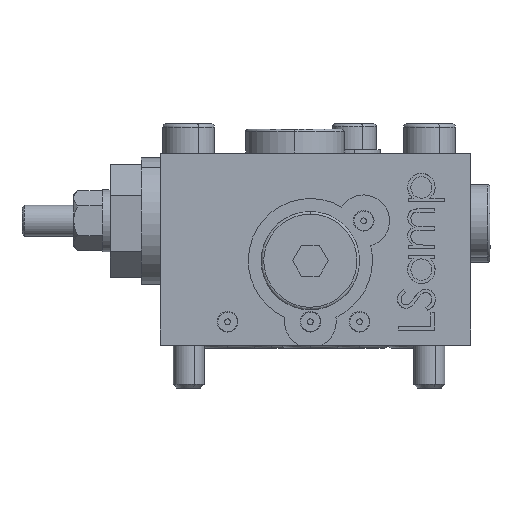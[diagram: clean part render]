
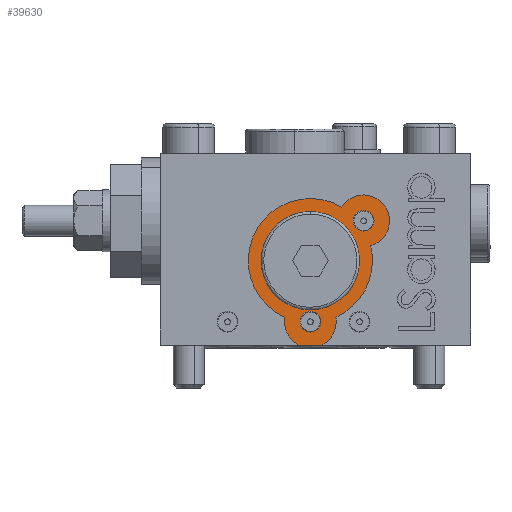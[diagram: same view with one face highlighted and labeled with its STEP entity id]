
A CAD part, left-side view. The second image highlights one B-rep face of the part: STEP entity #39630.
In plain terms, the highlighted planar face has unit normal (-1, 0, 0).
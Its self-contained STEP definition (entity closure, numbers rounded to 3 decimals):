
#348 = DIRECTION ( 'NONE',  ( -1., 0., 0. ) ) ;
#1657 = DIRECTION ( 'NONE',  ( -1., 0., 0. ) ) ;
#3519 = AXIS2_PLACEMENT_3D ( 'NONE', #12569, #23019, #19329 ) ;
#3849 = VERTEX_POINT ( 'NONE', #44828 ) ;
#3906 = CARTESIAN_POINT ( 'NONE',  ( 0.3, -29., 6.5 ) ) ;
#4014 = EDGE_CURVE ( 'NONE', #14472, #30923, #39243, .T. ) ;
#4237 = CIRCLE ( 'NONE', #3519, 12. ) ;
#4608 = CARTESIAN_POINT ( 'NONE',  ( 0.3, -29., 4.5 ) ) ;
#5322 = AXIS2_PLACEMENT_3D ( 'NONE', #40714, #37898, #9039 ) ;
#5469 = CARTESIAN_POINT ( 'NONE',  ( 0.3, -29., 16.3 ) ) ;
#5565 = DIRECTION ( 'NONE',  ( -1., 0., 0. ) ) ;
#6009 = CARTESIAN_POINT ( 'NONE',  ( 0.3, -29., 22.022 ) ) ;
#6166 = ORIENTED_EDGE ( 'NONE', *, *, #26347, .T. ) ;
#6289 = CARTESIAN_POINT ( 'NONE',  ( 0.3, -39.3, 26. ) ) ;
#6669 = CIRCLE ( 'NONE', #27305, 5.722 ) ;
#7082 = DIRECTION ( 'NONE',  ( 0., 0., 1. ) ) ;
#7326 = ORIENTED_EDGE ( 'NONE', *, *, #9170, .T. ) ;
#7945 = CARTESIAN_POINT ( 'NONE',  ( 0.3, -33.926, 5.358 ) ) ;
#8046 = CARTESIAN_POINT ( 'NONE',  ( 0.3, -29., 4.5 ) ) ;
#8601 = VERTEX_POINT ( 'NONE', #3906 ) ;
#8920 = DIRECTION ( 'NONE',  ( -1., 0., 0. ) ) ;
#9039 = DIRECTION ( 'NONE',  ( 0., 0., 1. ) ) ;
#9170 = EDGE_CURVE ( 'NONE', #3849, #38167, #32616, .T. ) ;
#9527 = ORIENTED_EDGE ( 'NONE', *, *, #19873, .T. ) ;
#9678 = AXIS2_PLACEMENT_3D ( 'NONE', #17088, #20329, #30474 ) ;
#11335 = VERTEX_POINT ( 'NONE', #34589 ) ;
#11585 = CARTESIAN_POINT ( 'NONE',  ( 0.3, -29., 4.5 ) ) ;
#11921 = VERTEX_POINT ( 'NONE', #18192 ) ;
#12569 = CARTESIAN_POINT ( 'NONE',  ( 0.3, -29., 16.3 ) ) ;
#12978 = VERTEX_POINT ( 'NONE', #32044 ) ;
#14048 = EDGE_LOOP ( 'NONE', ( #6166, #25636, #42347, #19351, #7326, #35489, #38068, #20562, #42597 ) ) ;
#14219 = EDGE_LOOP ( 'NONE', ( #20410, #32819 ) ) ;
#14435 = DIRECTION ( 'NONE',  ( 0., -1., 0. ) ) ;
#14472 = VERTEX_POINT ( 'NONE', #6289 ) ;
#14580 = VERTEX_POINT ( 'NONE', #40969 ) ;
#14810 = EDGE_CURVE ( 'NONE', #12978, #33454, #27073, .T. ) ;
#14912 = FACE_BOUND ( 'NONE', #14219, .T. ) ;
#15003 = DIRECTION ( 'NONE',  ( 1., 0., 0. ) ) ;
#15060 = EDGE_CURVE ( 'NONE', #30923, #14472, #17546, .T. ) ;
#15416 = VERTEX_POINT ( 'NONE', #36342 ) ;
#15472 = EDGE_CURVE ( 'NONE', #18871, #8601, #29882, .T. ) ;
#16217 = CARTESIAN_POINT ( 'NONE',  ( 0.3, -39.3, 24. ) ) ;
#16445 = DIRECTION ( 'NONE',  ( 1., 0., 0. ) ) ;
#16560 = CARTESIAN_POINT ( 'NONE',  ( 0.3, -29., 4.5 ) ) ;
#16607 = AXIS2_PLACEMENT_3D ( 'NONE', #30563, #44879, #27326 ) ;
#16738 = CARTESIAN_POINT ( 'NONE',  ( 0.3, -39.3, 22. ) ) ;
#17088 = CARTESIAN_POINT ( 'NONE',  ( 0.3, -29., 16.3 ) ) ;
#17546 = CIRCLE ( 'NONE', #35207, 2. ) ;
#17864 = CIRCLE ( 'NONE', #9678, 5.722 ) ;
#17949 = FACE_OUTER_BOUND ( 'NONE', #14048, .T. ) ;
#18192 = CARTESIAN_POINT ( 'NONE',  ( 0.3, -26.821, 0. ) ) ;
#18264 = EDGE_CURVE ( 'NONE', #15416, #14580, #19802, .T. ) ;
#18639 = PLANE ( 'NONE',  #39557 ) ;
#18871 = VERTEX_POINT ( 'NONE', #31618 ) ;
#19132 = DIRECTION ( 'NONE',  ( 0., -1., 0. ) ) ;
#19329 = DIRECTION ( 'NONE',  ( 0., -1., 0. ) ) ;
#19351 = ORIENTED_EDGE ( 'NONE', *, *, #26658, .T. ) ;
#19802 = CIRCLE ( 'NONE', #23505, 5. ) ;
#19873 = EDGE_CURVE ( 'NONE', #8601, #18871, #33813, .T. ) ;
#20270 = DIRECTION ( 'NONE',  ( 0., -1., 0. ) ) ;
#20329 = DIRECTION ( 'NONE',  ( 1., 0., 0. ) ) ;
#20410 = ORIENTED_EDGE ( 'NONE', *, *, #4014, .T. ) ;
#20562 = ORIENTED_EDGE ( 'NONE', *, *, #14810, .T. ) ;
#20683 = EDGE_LOOP ( 'NONE', ( #9527, #24934 ) ) ;
#20970 = CARTESIAN_POINT ( 'NONE',  ( 0.3, -29., 16.3 ) ) ;
#21630 = FACE_BOUND ( 'NONE', #20683, .T. ) ;
#22201 = DIRECTION ( 'NONE',  ( 0., -1., 0. ) ) ;
#22248 = AXIS2_PLACEMENT_3D ( 'NONE', #5469, #8920, #19132 ) ;
#22281 = CIRCLE ( 'NONE', #41317, 5. ) ;
#22492 = EDGE_CURVE ( 'NONE', #33454, #32565, #25885, .T. ) ;
#22821 = EDGE_CURVE ( 'NONE', #38167, #11921, #40683, .T. ) ;
#23019 = DIRECTION ( 'NONE',  ( -1., 0., 0. ) ) ;
#23160 = DIRECTION ( 'NONE',  ( 0., -1., 0. ) ) ;
#23339 = ORIENTED_EDGE ( 'NONE', *, *, #44156, .T. ) ;
#23505 = AXIS2_PLACEMENT_3D ( 'NONE', #25527, #32196, #28967 ) ;
#23597 = DIRECTION ( 'NONE',  ( 0., 0., 1. ) ) ;
#23720 = AXIS2_PLACEMENT_3D ( 'NONE', #16560, #30630, #20270 ) ;
#23944 = EDGE_CURVE ( 'NONE', #27669, #15416, #4237, .T. ) ;
#24043 = VECTOR ( 'NONE', #34582, 1000. ) ;
#24934 = ORIENTED_EDGE ( 'NONE', *, *, #15472, .T. ) ;
#25527 = CARTESIAN_POINT ( 'NONE',  ( 0.3, -39.3, 24. ) ) ;
#25636 = ORIENTED_EDGE ( 'NONE', *, *, #23944, .T. ) ;
#25885 = CIRCLE ( 'NONE', #35433, 5. ) ;
#26347 = EDGE_CURVE ( 'NONE', #32565, #27669, #32570, .T. ) ;
#26586 = CARTESIAN_POINT ( 'NONE',  ( 0.3, -29., 16.3 ) ) ;
#26607 = DIRECTION ( 'NONE',  ( -1., 0., 0. ) ) ;
#26658 = EDGE_CURVE ( 'NONE', #14580, #3849, #22281, .T. ) ;
#27038 = CARTESIAN_POINT ( 'NONE',  ( 0.3, -39.3, 24. ) ) ;
#27073 = CIRCLE ( 'NONE', #32990, 5. ) ;
#27305 = AXIS2_PLACEMENT_3D ( 'NONE', #20970, #31571, #7082 ) ;
#27326 = DIRECTION ( 'NONE',  ( 0., 0., 1. ) ) ;
#27669 = VERTEX_POINT ( 'NONE', #34065 ) ;
#27766 = CARTESIAN_POINT ( 'NONE',  ( 0.3, -24.074, 5.358 ) ) ;
#28967 = DIRECTION ( 'NONE',  ( 0., -1., 0. ) ) ;
#29882 = CIRCLE ( 'NONE', #16607, 2. ) ;
#30474 = DIRECTION ( 'NONE',  ( 0., 0., 1. ) ) ;
#30563 = CARTESIAN_POINT ( 'NONE',  ( 0.3, -29., 4.5 ) ) ;
#30630 = DIRECTION ( 'NONE',  ( -1., 0., 0. ) ) ;
#30662 = LINE ( 'NONE', #41514, #24043 ) ;
#30835 = EDGE_LOOP ( 'NONE', ( #33613, #23339 ) ) ;
#30923 = VERTEX_POINT ( 'NONE', #16738 ) ;
#31571 = DIRECTION ( 'NONE',  ( 1., 0., 0. ) ) ;
#31618 = CARTESIAN_POINT ( 'NONE',  ( 0.3, -29., 2.5 ) ) ;
#32044 = CARTESIAN_POINT ( 'NONE',  ( 0.3, -31.179, 0. ) ) ;
#32196 = DIRECTION ( 'NONE',  ( -1., 0., 0. ) ) ;
#32459 = FACE_BOUND ( 'NONE', #30835, .T. ) ;
#32565 = VERTEX_POINT ( 'NONE', #7945 ) ;
#32570 = CIRCLE ( 'NONE', #22248, 12. ) ;
#32616 = CIRCLE ( 'NONE', #45144, 12. ) ;
#32690 = CARTESIAN_POINT ( 'NONE',  ( 0.3, -29., 16.3 ) ) ;
#32819 = ORIENTED_EDGE ( 'NONE', *, *, #15060, .T. ) ;
#32990 = AXIS2_PLACEMENT_3D ( 'NONE', #11585, #5565, #39767 ) ;
#33454 = VERTEX_POINT ( 'NONE', #37127 ) ;
#33613 = ORIENTED_EDGE ( 'NONE', *, *, #36821, .T. ) ;
#33813 = CIRCLE ( 'NONE', #39727, 2. ) ;
#34065 = CARTESIAN_POINT ( 'NONE',  ( 0.3, -41., 16.3 ) ) ;
#34298 = EDGE_CURVE ( 'NONE', #11921, #12978, #30662, .T. ) ;
#34582 = DIRECTION ( 'NONE',  ( 0., -1., 0. ) ) ;
#34589 = CARTESIAN_POINT ( 'NONE',  ( 0.3, -29., 10.578 ) ) ;
#35207 = AXIS2_PLACEMENT_3D ( 'NONE', #27038, #16445, #23597 ) ;
#35433 = AXIS2_PLACEMENT_3D ( 'NONE', #8046, #39498, #22201 ) ;
#35489 = ORIENTED_EDGE ( 'NONE', *, *, #22821, .T. ) ;
#36342 = CARTESIAN_POINT ( 'NONE',  ( 0.3, -40.648, 19.185 ) ) ;
#36821 = EDGE_CURVE ( 'NONE', #40056, #11335, #6669, .T. ) ;
#36991 = DIRECTION ( 'NONE',  ( 0., -1., 0. ) ) ;
#37127 = CARTESIAN_POINT ( 'NONE',  ( 0.3, -34., 4.5 ) ) ;
#37898 = DIRECTION ( 'NONE',  ( 1., 0., 0. ) ) ;
#38068 = ORIENTED_EDGE ( 'NONE', *, *, #34298, .T. ) ;
#38167 = VERTEX_POINT ( 'NONE', #27766 ) ;
#39243 = CIRCLE ( 'NONE', #5322, 2. ) ;
#39498 = DIRECTION ( 'NONE',  ( -1., 0., 0. ) ) ;
#39557 = AXIS2_PLACEMENT_3D ( 'NONE', #32690, #348, #14435 ) ;
#39630 = ADVANCED_FACE ( 'NONE', ( #32459, #14912, #21630, #17949 ), #18639, .T. ) ;
#39727 = AXIS2_PLACEMENT_3D ( 'NONE', #4608, #15003, #42960 ) ;
#39767 = DIRECTION ( 'NONE',  ( 0., -1., 0. ) ) ;
#40056 = VERTEX_POINT ( 'NONE', #6009 ) ;
#40683 = CIRCLE ( 'NONE', #23720, 5. ) ;
#40714 = CARTESIAN_POINT ( 'NONE',  ( 0.3, -39.3, 24. ) ) ;
#40969 = CARTESIAN_POINT ( 'NONE',  ( 0.3, -44.3, 24. ) ) ;
#41317 = AXIS2_PLACEMENT_3D ( 'NONE', #16217, #26607, #36991 ) ;
#41514 = CARTESIAN_POINT ( 'NONE',  ( 0.3, 0., 0. ) ) ;
#42347 = ORIENTED_EDGE ( 'NONE', *, *, #18264, .T. ) ;
#42597 = ORIENTED_EDGE ( 'NONE', *, *, #22492, .T. ) ;
#42960 = DIRECTION ( 'NONE',  ( 0., 0., 1. ) ) ;
#44156 = EDGE_CURVE ( 'NONE', #11335, #40056, #17864, .T. ) ;
#44828 = CARTESIAN_POINT ( 'NONE',  ( 0.3, -35.063, 26.655 ) ) ;
#44879 = DIRECTION ( 'NONE',  ( 1., 0., 0. ) ) ;
#45144 = AXIS2_PLACEMENT_3D ( 'NONE', #26586, #1657, #23160 ) ;
